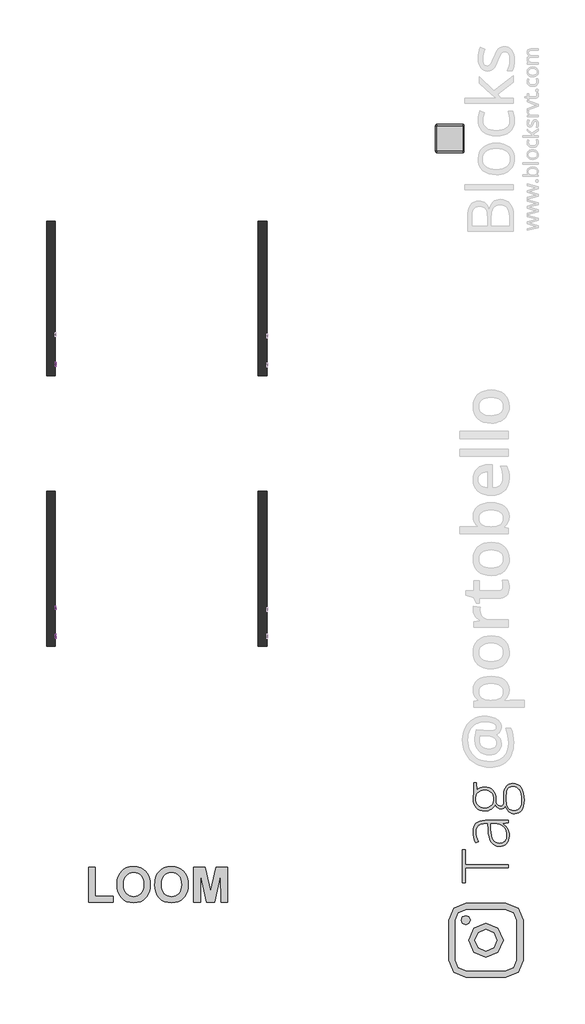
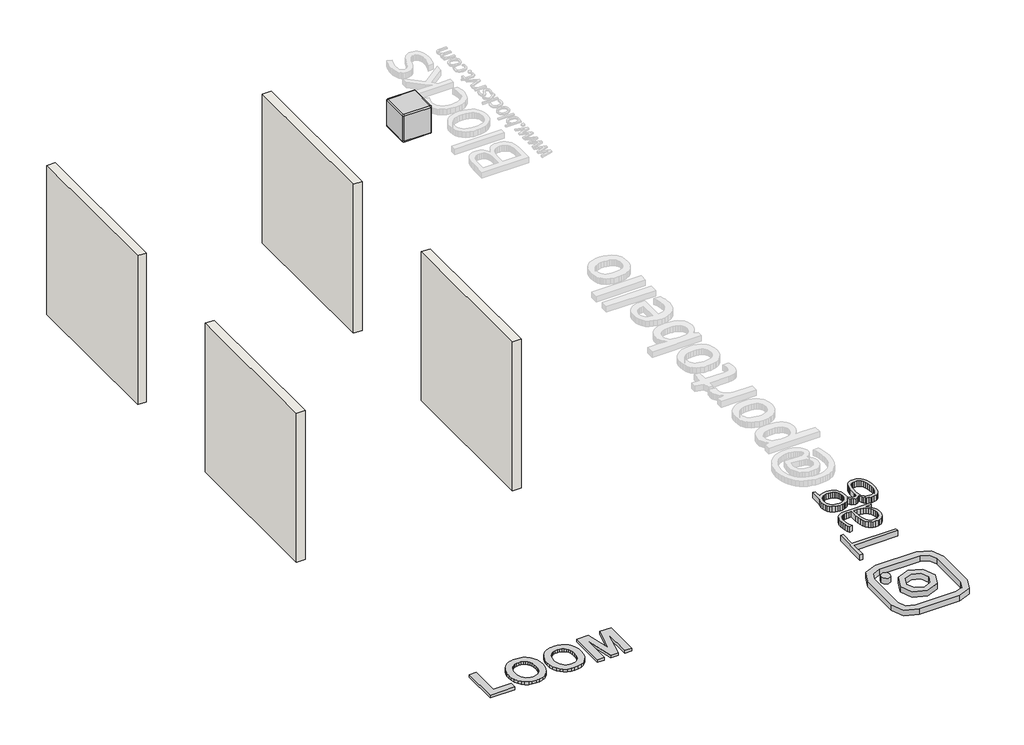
# One storey, part 1 of 3: 6 proxies, 4 walls, 1 furniture element.
"""IFC4 building model written with IfcOpenShell, lengths in millimetres."""

from ifc_helpers import new_model, si_unit, frame, origin, origin_with_axes, place, context, project, spatial, polyline, outline, extrude, transform, mapped, element, save
from components import generic_models_d67f6705, branco_22256ad2

model = new_model("IFC4")

# Units and contexts
model_context = context("Model", 3, world=origin())
ifc_project = project(units=[si_unit("LENGTHUNIT", "METRE", prefix="MILLI")], contexts=[model_context])

# Site, building, storey
site = spatial("IfcSite", under=ifc_project)
building = spatial("IfcBuilding", under=site)
storey = spatial("IfcBuildingStorey", under=building, Name="PORTOBELLO - SHOWROOM", Elevation=0.0)

# Proxies
placement = place(None, origin())
generic_models_shape = generic_models_d67f6705(model_context)
element("IfcBuildingElementProxy", 1, Name="Blks_Instagram1 : Único 2", ObjectType="Blks_Instagram1 : Único 2", at=placement, inside=storey, context=model_context, shape_type="MappedRepresentation", body=[
    mapped(generic_models_shape, transform((-1684.4656971, -13353.3726642, 0.0), x_axis=(-1.0, 0.0, 0.0), y_axis=(0.0, -1.0, 0.0), z_axis=(0.0, 0.0, 1.0))),
])
element("IfcBuildingElementProxy", 2, Name="10mm Arial", ObjectType="10mm Arial", at=placement, inside=storey, context=model_context, shape_type="SweptSolid", body=[
    extrude(outline(polyline([(-8015.2771503, 2494.7271914), (-8002.7201115, 2491.4898299), (-8008.5142529, 2476.8573235), (-8017.6070696, 2466.1672859), (-8029.5509717, 2459.6281834), (-8043.8983695, 2457.4484826), (-8058.4634308, 2459.0978202), (-8070.0302539, 2464.045833), (-8078.89621, 2472.1208428), (-8085.3586704, 2483.1511713), (-8090.6193829, 2510.006557), (-8089.1325265, 2524.6543917), (-8084.6719573, 2537.303401), (-8077.4706672, 2547.5519802), (-8067.7616482, 2554.998525), (-8056.2469418, 2559.5326706), (-8043.6285894, 2561.0440524), (-8029.8606057, 2559.0881465), (-8018.4777236, 2553.2204287), (-8009.8355624, 2543.8026496), (-8004.2897413, 2531.1965599), (-8016.8467801, 2528.204453), (-8027.147476, 2543.643234), (-8044.1190987, 2548.4870137), (-8063.7639972, 2543.1159365), (-8074.8617708, 2528.6949623), (-8078.0623441, 2510.0310824), (-8074.2731596, 2488.3996211), (-8062.4764103, 2474.5795208), (-8045.1491683, 2470.0055213), (-8034.6675971, 2471.5628885), (-8025.9334654, 2476.2349898), (-8019.3391806, 2483.9727744), (-8015.2771503, 2494.7271914)])), frame((-9214.3406146, 0.0, 0.0), z_axis=(1.0, 0.0, 0.0), x_axis=(0.0, 1.0, 0.0)), (0.0, 0.0, 1.0), 20.0),
    extrude(outline(polyline([(-7939.9349177, 2468.4358915), (-7952.1118117, 2459.9255547), (-7965.56403, 2457.4484826), (-7976.0578639, 2458.9384047), (-7983.7987142, 2463.4081709), (-7988.5719831, 2470.1955937), (-7990.1630727, 2478.6384855), (-7987.759577, 2488.5712994), (-7981.4442694, 2495.7817865), (-7972.6518898, 2499.9020648), (-7961.7871082, 2501.7905257), (-7940.0084941, 2506.1070078), (-7939.9349177, 2508.902911), (-7943.3930084, 2518.1735372), (-7957.2744224, 2521.8033063), (-7969.9786139, 2519.3875478), (-7976.0364041, 2510.8158973), (-7988.5934429, 2512.3855272), (-7983.1610521, 2524.6482604), (-7972.2226941, 2531.834222), (-7955.6557416, 2534.360345), (-7940.4376897, 2532.1285276), (-7931.8415138, 2526.5244585), (-7927.9910155, 2518.001859), (-7927.3778789, 2507.0144501), (-7927.3778789, 2491.391728), (-7926.7402168, 2469.5763257), (-7924.2386192, 2459.0181124), (-7936.795658, 2459.0181124), (-7939.9349177, 2468.4358915)]), holes=[polyline([(-7939.9349177, 2493.549969), (-7960.1929529, 2489.6994708), (-7970.9964208, 2487.6638571), (-7975.8892513, 2484.3529192), (-7977.606034, 2479.5214023), (-7973.8659003, 2472.7278481), (-7962.8907542, 2470.0055213), (-7950.1865626, 2473.009891), (-7941.9950568, 2480.2816917), (-7940.0084941, 2489.9937764), (-7939.9349177, 2493.549969)])]), frame((-9214.3406146, 0.0, 0.0), z_axis=(1.0, 0.0, 0.0), x_axis=(0.0, 1.0, 0.0)), (0.0, 0.0, 1.0), 20.0),
    extrude(outline(polyline([(-7910.1119506, 2459.0181124), (-7910.1119506, 2532.7907152), (-7899.1245417, 2532.7907152), (-7899.1245417, 2521.8768827), (-7891.3254434, 2531.9323239), (-7883.4772941, 2534.360345), (-7870.8712044, 2530.4853214), (-7875.0650592, 2519.2281323), (-7883.8942271, 2521.8033063), (-7890.9943496, 2519.3262342), (-7895.5192981, 2512.4591036), (-7897.5549118, 2497.7928747), (-7897.5549118, 2459.0181124), (-7910.1119506, 2459.0181124)])), frame((-9214.3406146, 0.0, 0.0), z_axis=(1.0, 0.0, 0.0), x_axis=(0.0, 1.0, 0.0)), (0.0, 0.0, 1.0), 20.0),
    extrude(outline(polyline([(-7850.4660164, 2459.0181124), (-7863.0230552, 2459.0181124), (-7863.0230552, 2559.4744226), (-7850.4660164, 2559.4744226), (-7850.4660164, 2522.2202392), (-7841.6736367, 2531.3253186), (-7830.7475415, 2534.360345), (-7818.1659773, 2531.6257555), (-7808.4048416, 2523.9370218), (-7802.4083651, 2511.980857), (-7800.2378614, 2497.0080598), (-7802.4850072, 2480.2449035), (-7809.2264448, 2467.7737039), (-7819.1194048, 2460.0297879), (-7830.8211179, 2457.4484826), (-7841.9863364, 2460.7778146), (-7850.4660164, 2470.7658108), (-7850.4660164, 2459.0181124)]), holes=[polyline([(-7850.4660164, 2496.4194486), (-7847.0324511, 2478.8592147), (-7840.4534948, 2472.2189447), (-7831.9002384, 2470.0055213), (-7824.6529631, 2471.6364649), (-7818.4602829, 2476.5292954), (-7814.2112458, 2484.6533561), (-7812.7949001, 2495.9779902), (-7814.1529978, 2507.4681712), (-7818.2272909, 2515.5002614), (-7824.2268331, 2520.2275451), (-7831.3606781, 2521.8033063), (-7838.6079535, 2520.1723628), (-7844.8006337, 2515.2795322), (-7849.0496708, 2507.3026243), (-7850.4660164, 2496.4194486)])]), frame((-9214.3406146, 0.0, 0.0), z_axis=(1.0, 0.0, 0.0), x_axis=(0.0, 1.0, 0.0)), (0.0, 0.0, 1.0), 20.0),
    extrude(outline(polyline([(-7789.2504524, 2495.9044138), (-7786.534257, 2513.6915083), (-7778.3856708, 2526.1933647), (-7768.3179669, 2532.3186), (-7756.2637002, 2534.360345), (-7743.072065, 2531.8740759), (-7732.5353115, 2524.4152684), (-7725.6283271, 2512.5725339), (-7723.3259989, 2496.9344834), (-7727.3972263, 2474.5917836), (-7739.2552893, 2461.9489057), (-7756.2637002, 2457.4484826), (-7769.6147509, 2459.9255547), (-7780.1392417, 2467.356771), (-7786.9726497, 2479.4478259), (-7789.2504524, 2495.9044138)]), holes=[polyline([(-7776.6934137, 2495.9289393), (-7775.2402798, 2484.5644513), (-7770.8808781, 2476.4679817), (-7764.3203159, 2471.6211364), (-7756.2637002, 2470.0055213), (-7748.2438727, 2471.6303335), (-7741.6955732, 2476.5047699), (-7737.3361715, 2484.7085384), (-7735.8830377, 2496.3213467), (-7737.3453686, 2507.3547409), (-7741.7323614, 2515.3408459), (-7748.289858, 2520.1876912), (-7756.2637002, 2521.8033063), (-7764.3203159, 2520.1938225), (-7770.8808781, 2515.3653714), (-7775.2402798, 2507.2872959), (-7776.6934137, 2495.9289393)])]), frame((-9214.3406146, 0.0, 0.0), z_axis=(1.0, 0.0, 0.0), x_axis=(0.0, 1.0, 0.0)), (0.0, 0.0, 1.0), 20.0),
    extrude(outline(polyline([(-7709.1993303, 2459.0181124), (-7709.1993303, 2532.7907152), (-7696.6422915, 2532.7907152), (-7696.6422915, 2522.4900193), (-7687.0405714, 2531.3927636), (-7673.9317097, 2534.360345), (-7662.0736467, 2531.9691121), (-7653.9802428, 2525.6905927), (-7650.2155837, 2516.4567546), (-7649.5533961, 2504.3166488), (-7649.5533961, 2459.0181124), (-7662.1104349, 2459.0181124), (-7662.1104349, 2502.6243916), (-7663.5574374, 2513.7344278), (-7668.6709971, 2519.608277), (-7677.2916986, 2521.8033063), (-7690.9155951, 2516.8736875), (-7695.2106174, 2509.7306455), (-7696.6422915, 2498.1607567), (-7696.6422915, 2459.0181124), (-7709.1993303, 2459.0181124)])), frame((-9214.3406146, 0.0, 0.0), z_axis=(1.0, 0.0, 0.0), x_axis=(0.0, 1.0, 0.0)), (0.0, 0.0, 1.0), 20.0),
])
element("IfcBuildingElementProxy", 3, Name="10mm Arial", ObjectType="10mm Arial", at=placement, inside=storey, context=model_context, shape_type="SweptSolid", body=[
    extrude(outline(polyline([(-3341.3536939, 2439.3911643), (-3341.3536939, 2539.8474745), (-3319.7467581, 2539.8474745), (-3299.1944173, 2469.0424532), (-3295.0496135, 2454.2535969), (-3290.5614531, 2470.2687265), (-3270.3524689, 2539.8474745), (-3248.745533, 2539.8474745), (-3248.745533, 2439.3911643), (-3261.3025718, 2439.3911643), (-3261.3025718, 2527.2904357), (-3286.5392766, 2439.3911643), (-3303.5599503, 2439.3911643), (-3328.7966552, 2527.2904357), (-3328.7966552, 2439.3911643), (-3341.3536939, 2439.3911643)])), frame((-9214.3406146, 0.0, 0.0), z_axis=(1.0, 0.0, 0.0), x_axis=(0.0, 1.0, 0.0)), (0.0, 0.0, 1.0), 20.0),
    extrude(outline(polyline([(-3181.2514496, 2448.8089434), (-3193.4283437, 2440.2986066), (-3206.880562, 2437.8215345), (-3217.3743959, 2439.3114566), (-3225.1152462, 2443.7812228), (-3229.8885151, 2450.5686456), (-3231.4796047, 2459.0115374), (-3229.076109, 2468.9443513), (-3222.7608014, 2476.1548384), (-3213.9684217, 2480.2751167), (-3203.1036401, 2482.1635776), (-3181.325026, 2486.4800597), (-3181.2514496, 2489.2759629), (-3184.7095404, 2498.5465892), (-3198.5909543, 2502.1763582), (-3211.2951459, 2499.7605998), (-3217.3529361, 2491.1889493), (-3229.9099749, 2492.7585791), (-3224.4775841, 2505.0213123), (-3213.5392261, 2512.2072739), (-3196.9722736, 2514.733397), (-3181.7542217, 2512.5015795), (-3173.1580457, 2506.8975105), (-3169.3075475, 2498.3749109), (-3168.6944109, 2487.387502), (-3168.6944109, 2471.7647799), (-3168.0567487, 2449.9493776), (-3165.5551512, 2439.3911643), (-3178.1121899, 2439.3911643), (-3181.2514496, 2448.8089434)]), holes=[polyline([(-3181.2514496, 2473.923021), (-3201.5094848, 2470.0725227), (-3212.3129528, 2468.036909), (-3217.2057833, 2464.7259711), (-3218.9225659, 2459.8944542), (-3215.1824323, 2453.1009), (-3204.2072861, 2450.3785733), (-3191.5030946, 2453.3829429), (-3183.3115888, 2460.6547437), (-3181.325026, 2470.3668283), (-3181.2514496, 2473.923021)])]), frame((-9214.3406146, 0.0, 0.0), z_axis=(1.0, 0.0, 0.0), x_axis=(0.0, 1.0, 0.0)), (0.0, 0.0, 1.0), 20.0),
    extrude(outline(polyline([(-3105.909217, 2439.3911643), (-3105.909217, 2451.2369646), (-3114.2172187, 2441.175392), (-3125.7012684, 2437.8215345), (-3141.250414, 2442.6775768), (-3152.2378229, 2456.227897), (-3156.1373721, 2476.2038893), (-3152.5443913, 2496.1921444), (-3141.7777115, 2509.950931), (-3125.7503193, 2514.733397), (-3114.1742992, 2511.3120944), (-3105.909217, 2502.4216128), (-3105.909217, 2539.8474745), (-3093.3521782, 2539.8474745), (-3093.3521782, 2439.3911643), (-3105.909217, 2439.3911643)]), holes=[polyline([(-3143.5803333, 2476.2529403), (-3142.1639876, 2464.8945837), (-3137.9149506, 2456.8165082), (-3131.7406644, 2451.988057), (-3124.5485714, 2450.3785733), (-3117.3595441, 2451.9144806), (-3111.3416078, 2456.5222026), (-3107.2673147, 2464.2875784), (-3105.909217, 2475.2964471), (-3107.2918402, 2487.3323197), (-3111.4397097, 2495.6771096), (-3117.6109301, 2500.551546), (-3125.0636062, 2502.1763582), (-3132.3292756, 2500.6159254), (-3138.2828326, 2495.934627), (-3142.2559581, 2487.8933397), (-3143.5803333, 2476.2529403)])]), frame((-9214.3406146, 0.0, 0.0), z_axis=(1.0, 0.0, 0.0), x_axis=(0.0, 1.0, 0.0)), (0.0, 0.0, 1.0), 20.0),
    extrude(outline(polyline([(-3028.9973546, 2439.3911643), (-3028.9973546, 2451.2369646), (-3037.3053563, 2441.175392), (-3048.7894059, 2437.8215345), (-3064.3385516, 2442.6775768), (-3075.3259605, 2456.227897), (-3079.2255096, 2476.2038893), (-3075.6325288, 2496.1921444), (-3064.8658491, 2509.950931), (-3048.8384568, 2514.733397), (-3037.2624367, 2511.3120944), (-3028.9973546, 2502.4216128), (-3028.9973546, 2539.8474745), (-3016.4403158, 2539.8474745), (-3016.4403158, 2439.3911643), (-3028.9973546, 2439.3911643)]), holes=[polyline([(-3066.6684709, 2476.2529403), (-3065.2521252, 2464.8945837), (-3061.0030881, 2456.8165082), (-3054.828802, 2451.988057), (-3047.636709, 2450.3785733), (-3040.4476817, 2451.9144806), (-3034.4297454, 2456.5222026), (-3030.3554523, 2464.2875784), (-3028.9973546, 2475.2964471), (-3030.3799777, 2487.3323197), (-3034.5278472, 2495.6771096), (-3040.6990677, 2500.551546), (-3048.1517438, 2502.1763582), (-3055.4174132, 2500.6159254), (-3061.3709701, 2495.934627), (-3065.3440957, 2487.8933397), (-3066.6684709, 2476.2529403)])]), frame((-9214.3406146, 0.0, 0.0), z_axis=(1.0, 0.0, 0.0), x_axis=(0.0, 1.0, 0.0)), (0.0, 0.0, 1.0), 20.0),
    extrude(outline(polyline([(-2945.9541255, 2461.3659822), (-2933.6423414, 2459.7963523), (-2938.0783851, 2450.5195947), (-2945.1570479, 2443.5850191), (-2954.718914, 2439.2624056), (-2966.6045682, 2437.8215345), (-2981.3382421, 2440.3078036), (-2992.6751389, 2447.7666111), (-2999.9040201, 2459.7135789), (-3002.3136472, 2475.6643291), (-2999.8794946, 2492.1515738), (-2992.577037, 2504.481752), (-2981.3934244, 2512.1704857), (-2967.3158067, 2514.733397), (-2953.6765817, 2512.1766171), (-2942.7780776, 2504.5062775), (-2935.6319699, 2492.2006248), (-2933.2499339, 2475.7379055), (-2933.3235103, 2472.3533911), (-2989.7566084, 2472.3533911), (-2987.583039, 2462.9540061), (-2982.5338586, 2456.043956), (-2975.2467294, 2451.7949189), (-2966.3593135, 2450.3785733), (-2954.0475294, 2453.0027982), (-2945.9541255, 2461.3659822)]), holes=[polyline([(-2989.7566084, 2484.9104299), (-2945.8069727, 2484.9104299), (-2950.8346933, 2496.2902463), (-2958.155545, 2500.7048302), (-2967.3648576, 2502.1763582), (-2982.8281642, 2497.4797314), (-2987.6934036, 2491.9890926), (-2989.7566084, 2484.9104299)])]), frame((-9214.3406146, 0.0, 0.0), z_axis=(1.0, 0.0, 0.0), x_axis=(0.0, 1.0, 0.0)), (0.0, 0.0, 1.0), 20.0),
    extrude(outline(polyline([(-2920.6928952, 2439.3911643), (-2920.6928952, 2513.1637671), (-2909.7054863, 2513.1637671), (-2909.7054863, 2502.2499346), (-2901.906388, 2512.3053758), (-2894.0582387, 2514.733397), (-2881.452149, 2510.8583733), (-2885.6460038, 2499.6011842), (-2894.4751717, 2502.1763582), (-2901.5752942, 2499.6992861), (-2906.1002427, 2492.8321555), (-2908.1358564, 2478.1659266), (-2908.1358564, 2439.3911643), (-2920.6928952, 2439.3911643)])), frame((-9214.3406146, 0.0, 0.0), z_axis=(1.0, 0.0, 0.0), x_axis=(0.0, 1.0, 0.0)), (0.0, 0.0, 1.0), 20.0),
])
element("IfcBuildingElementProxy", 4, Name="10mm Arial", ObjectType="10mm Arial", at=placement, inside=storey, context=model_context, shape_type="SweptSolid", body=[
    extrude(outline(polyline([(-7585.9104933, 2459.0181124), (-7585.9104933, 2559.4744226), (-7548.6808354, 2559.4744226), (-7533.67125, 2558.5179294), (-7521.4698305, 2553.8213026), (-7513.5603676, 2544.1092179), (-7510.5682607, 2530.411745), (-7512.588546, 2518.5720761), (-7518.6494019, 2508.7067072), (-7529.983233, 2502.0480431), (-7547.8224441, 2499.8284884), (-7573.3534546, 2499.8284884), (-7573.3534546, 2459.0181124), (-7585.9104933, 2459.0181124)]), holes=[polyline([(-7573.3534546, 2512.3855272), (-7547.0866801, 2512.3855272), (-7528.5944785, 2516.9963149), (-7524.4925943, 2522.5452016), (-7523.1252995, 2529.9702866), (-7526.3503983, 2540.3690843), (-7534.8239469, 2546.0589925), (-7547.3809857, 2546.9173838), (-7573.3534546, 2546.9173838), (-7573.3534546, 2512.3855272)])]), frame((-9214.3406146, 0.0, 0.0), z_axis=(1.0, 0.0, 0.0), x_axis=(0.0, 1.0, 0.0)), (0.0, 0.0, 1.0), 20.0),
    extrude(outline(polyline([(-7498.011222, 2495.9044138), (-7495.2950266, 2513.6915083), (-7487.1464404, 2526.1933647), (-7477.0787364, 2532.3186), (-7465.0244697, 2534.360345), (-7451.8328345, 2531.8740759), (-7441.296081, 2524.4152684), (-7434.3890966, 2512.5725339), (-7432.0867684, 2496.9344834), (-7436.1579958, 2474.5917836), (-7448.0160588, 2461.9489057), (-7465.0244697, 2457.4484826), (-7478.3755205, 2459.9255547), (-7488.9000112, 2467.356771), (-7495.7334193, 2479.4478259), (-7498.011222, 2495.9044138)]), holes=[polyline([(-7485.4541832, 2495.9289393), (-7484.0010493, 2484.5644513), (-7479.6416477, 2476.4679817), (-7473.0810854, 2471.6211364), (-7465.0244697, 2470.0055213), (-7457.0046422, 2471.6303335), (-7450.4563427, 2476.5047699), (-7446.0969411, 2484.7085384), (-7444.6438072, 2496.3213467), (-7446.1061381, 2507.3547409), (-7450.4931309, 2515.3408459), (-7457.0506275, 2520.1876912), (-7465.0244697, 2521.8033063), (-7473.0810854, 2520.1938225), (-7479.6416477, 2515.3653714), (-7484.0010493, 2507.2872959), (-7485.4541832, 2495.9289393)])]), frame((-9214.3406146, 0.0, 0.0), z_axis=(1.0, 0.0, 0.0), x_axis=(0.0, 1.0, 0.0)), (0.0, 0.0, 1.0), 20.0),
    extrude(outline(polyline([(-7417.9600998, 2459.0181124), (-7417.9600998, 2532.7907152), (-7406.9726909, 2532.7907152), (-7406.9726909, 2521.8768827), (-7399.1735926, 2531.9323239), (-7391.3254434, 2534.360345), (-7378.7193537, 2530.4853214), (-7382.9132084, 2519.2281323), (-7391.7423763, 2521.8033063), (-7398.8424988, 2519.3262342), (-7403.3674473, 2512.4591036), (-7405.403061, 2497.7928747), (-7405.403061, 2459.0181124), (-7417.9600998, 2459.0181124)])), frame((-9214.3406146, 0.0, 0.0), z_axis=(1.0, 0.0, 0.0), x_axis=(0.0, 1.0, 0.0)), (0.0, 0.0, 1.0), 20.0),
    extrude(outline(polyline([(-7344.187497, 2469.4904866), (-7342.6178672, 2458.6502304), (-7352.0111208, 2457.4484826), (-7362.5325459, 2459.5331472), (-7367.7809957, 2465.0023262), (-7369.3015746, 2479.2516222), (-7369.3015746, 2520.2336764), (-7378.7193537, 2520.2336764), (-7378.7193537, 2530.4853214), (-7378.7193537, 2532.7907152), (-7369.3015746, 2532.7907152), (-7369.3015746, 2550.7188311), (-7356.7445358, 2558.1009965), (-7356.7445358, 2532.7907152), (-7344.187497, 2532.7907152), (-7344.187497, 2520.2336764), (-7356.7445358, 2520.2336764), (-7356.7445358, 2479.6195042), (-7356.0823482, 2473.144781), (-7353.9363699, 2470.8516499), (-7349.656676, 2470.0055213), (-7344.187497, 2469.4904866)])), frame((-9214.3406146, 0.0, 0.0), z_axis=(1.0, 0.0, 0.0), x_axis=(0.0, 1.0, 0.0)), (0.0, 0.0, 1.0), 20.0),
    extrude(outline(polyline([(-7334.769718, 2495.9044138), (-7332.0535226, 2513.6915083), (-7323.9049364, 2526.1933647), (-7313.8372324, 2532.3186), (-7301.7829657, 2534.360345), (-7288.5913305, 2531.8740759), (-7278.054577, 2524.4152684), (-7271.1475926, 2512.5725339), (-7268.8452644, 2496.9344834), (-7272.9164918, 2474.5917836), (-7284.7745548, 2461.9489057), (-7301.7829657, 2457.4484826), (-7315.1340165, 2459.9255547), (-7325.6585072, 2467.356771), (-7332.4919153, 2479.4478259), (-7334.769718, 2495.9044138)]), holes=[polyline([(-7322.2126792, 2495.9289393), (-7320.7595453, 2484.5644513), (-7316.4001437, 2476.4679817), (-7309.8395814, 2471.6211364), (-7301.7829657, 2470.0055213), (-7293.7631382, 2471.6303335), (-7287.2148387, 2476.5047699), (-7282.8554371, 2484.7085384), (-7281.4023032, 2496.3213467), (-7282.8646341, 2507.3547409), (-7287.2516269, 2515.3408459), (-7293.8091235, 2520.1876912), (-7301.7829657, 2521.8033063), (-7309.8395814, 2520.1938225), (-7316.4001437, 2515.3653714), (-7320.7595453, 2507.2872959), (-7322.2126792, 2495.9289393)])]), frame((-9214.3406146, 0.0, 0.0), z_axis=(1.0, 0.0, 0.0), x_axis=(0.0, 1.0, 0.0)), (0.0, 0.0, 1.0), 20.0),
    extrude(outline(polyline([(-7242.1615571, 2459.0181124), (-7254.7185958, 2459.0181124), (-7254.7185958, 2559.4744226), (-7242.1615571, 2559.4744226), (-7242.1615571, 2522.2202392), (-7233.3691774, 2531.3253186), (-7222.4430821, 2534.360345), (-7209.8615179, 2531.6257555), (-7200.1003823, 2523.9370218), (-7194.1039057, 2511.980857), (-7191.933402, 2497.0080598), (-7194.1805478, 2480.2449035), (-7200.9219854, 2467.7737039), (-7210.8149454, 2460.0297879), (-7222.5166585, 2457.4484826), (-7233.6818771, 2460.7778146), (-7242.1615571, 2470.7658108), (-7242.1615571, 2459.0181124)]), holes=[polyline([(-7242.1615571, 2496.4194486), (-7238.7279918, 2478.8592147), (-7232.1490354, 2472.2189447), (-7223.595779, 2470.0055213), (-7216.3485037, 2471.6364649), (-7210.1558235, 2476.5292954), (-7205.9067864, 2484.6533561), (-7204.4904407, 2495.9779902), (-7205.8485384, 2507.4681712), (-7209.9228315, 2515.5002614), (-7215.9223737, 2520.2275451), (-7223.0562188, 2521.8033063), (-7230.3034941, 2520.1723628), (-7236.4961743, 2515.2795322), (-7240.7452114, 2507.3026243), (-7242.1615571, 2496.4194486)])]), frame((-9214.3406146, 0.0, 0.0), z_axis=(1.0, 0.0, 0.0), x_axis=(0.0, 1.0, 0.0)), (0.0, 0.0, 1.0), 20.0),
    extrude(outline(polyline([(-7126.1561012, 2480.9929303), (-7113.8443171, 2479.4233004), (-7118.2803609, 2470.1465428), (-7125.3590236, 2463.2119672), (-7134.9208898, 2458.8893537), (-7146.8065439, 2457.4484826), (-7161.5402178, 2459.9347517), (-7172.8771146, 2467.3935592), (-7180.1059958, 2479.340527), (-7182.5156229, 2495.2912771), (-7180.0814704, 2511.7785219), (-7172.7790128, 2524.1087001), (-7161.5954001, 2531.7974338), (-7147.5177824, 2534.360345), (-7133.8785575, 2531.8035652), (-7122.9800533, 2524.1332256), (-7115.8339456, 2511.8275728), (-7113.4519097, 2495.3648535), (-7113.5254861, 2491.9803392), (-7169.9585841, 2491.9803392), (-7167.7850147, 2482.5809542), (-7162.7358343, 2475.6709041), (-7155.4487051, 2471.421867), (-7146.5612892, 2470.0055213), (-7134.2495051, 2472.6297462), (-7126.1561012, 2480.9929303)]), holes=[polyline([(-7169.9585841, 2504.537378), (-7126.0089484, 2504.537378), (-7131.036669, 2515.9171943), (-7138.3575207, 2520.3317783), (-7147.5668334, 2521.8033063), (-7163.0301399, 2517.1066795), (-7167.8953793, 2511.6160407), (-7169.9585841, 2504.537378)])]), frame((-9214.3406146, 0.0, 0.0), z_axis=(1.0, 0.0, 0.0), x_axis=(0.0, 1.0, 0.0)), (0.0, 0.0, 1.0), 20.0),
    extrude(outline(polyline([(-9194.3406146, -7088.3378321), (-9194.3406146, -7100.8948709), (-9214.3406146, -7100.8948709), (-9214.3406146, -7088.3378321), (-9194.3406146, -7088.3378321)])), frame((0.0, 0.0, 2459.0181124), z_axis=(0.0, 0.0, 1.0), x_axis=(1.0, 0.0, 0.0)), (0.0, 0.0, 1.0), 100.4563101),
    extrude(outline(polyline([(-9194.3406146, -7056.9452352), (-9194.3406146, -7069.502274), (-9214.3406146, -7069.502274), (-9214.3406146, -7056.9452352), (-9194.3406146, -7056.9452352)])), frame((0.0, 0.0, 2459.0181124), z_axis=(0.0, 0.0, 1.0), x_axis=(1.0, 0.0, 0.0)), (0.0, 0.0, 1.0), 100.4563101),
    extrude(outline(polyline([(-7041.2489368, 2495.9044138), (-7038.5327414, 2513.6915083), (-7030.3841552, 2526.1933647), (-7020.3164512, 2532.3186), (-7008.2621845, 2534.360345), (-6995.0705493, 2531.8740759), (-6984.5337958, 2524.4152684), (-6977.6268114, 2512.5725339), (-6975.3244832, 2496.9344834), (-6979.3957106, 2474.5917836), (-6991.2537736, 2461.9489057), (-7008.2621845, 2457.4484826), (-7021.6132353, 2459.9255547), (-7032.137726, 2467.356771), (-7038.9711341, 2479.4478259), (-7041.2489368, 2495.9044138)]), holes=[polyline([(-7028.691898, 2495.9289393), (-7027.2387641, 2484.5644513), (-7022.8793625, 2476.4679817), (-7016.3188002, 2471.6211364), (-7008.2621845, 2470.0055213), (-7000.242357, 2471.6303335), (-6993.6940575, 2476.5047699), (-6989.3346559, 2484.7085384), (-6987.881522, 2496.3213467), (-6989.3438529, 2507.3547409), (-6993.7308457, 2515.3408459), (-7000.2883423, 2520.1876912), (-7008.2621845, 2521.8033063), (-7016.3188002, 2520.1938225), (-7022.8793625, 2515.3653714), (-7027.2387641, 2507.2872959), (-7028.691898, 2495.9289393)])]), frame((-9214.3406146, 0.0, 0.0), z_axis=(1.0, 0.0, 0.0), x_axis=(0.0, 1.0, 0.0)), (0.0, 0.0, 1.0), 20.0),
])
element("IfcBuildingElementProxy", 5, Name="600mm Arial", ObjectType="600mm Arial", at=placement, inside=storey, context=model_context, shape_type="SweptSolid", body=[
    extrude(outline(polyline([(-8628.1261438, -12688.7002712), (-8628.1261438, -12076.5446312), (-8511.5250695, -12076.5446312), (-8511.5250695, -12581.8159531), (-8200.5888714, -12581.8159531), (-8200.5888714, -12688.7002712), (-8628.1261438, -12688.7002712)])), origin_with_axes(), (0.0, 0.0, 1.0), 50.0),
    extrude(outline(polyline([(-8132.5715781, -12386.4180591), (-8130.8540655, -12341.610908), (-8125.7015278, -12300.5614087), (-8117.113965, -12263.2695612), (-8105.091377, -12229.7353655), (-8080.8564206, -12185.4975556), (-8049.1441167, -12146.0042555), (-8012.0040935, -12113.6846544), (-7971.4859794, -12090.9679412), (-7942.3167327, -12080.4066622), (-7910.9839896, -12072.8628916), (-7877.48775, -12068.3366292), (-7841.8280139, -12066.827875), (-7778.7260328, -12072.0610694), (-7722.2663655, -12087.7606525), (-7672.449012, -12113.9266244), (-7629.2739723, -12150.558985), (-7610.5924647, -12172.5130183), (-7594.4018248, -12196.509563), (-7569.4931481, -12250.6301869), (-7554.547942, -12312.9208569), (-7549.5662067, -12383.3815728), (-7554.5099859, -12453.3630932), (-7569.3413238, -12515.2789468), (-7594.0602201, -12569.1291337), (-7610.1275028, -12593.0296022), (-7628.666675, -12614.9136539), (-7671.5570441, -12651.4463798), (-7721.1276831, -12677.541184), (-7777.378592, -12693.1980665), (-7840.3097708, -12698.4170274), (-7903.9051809, -12693.2217891), (-7960.6305408, -12677.6360742), (-8010.4858504, -12651.6598827), (-8053.4711097, -12615.2932147), (-8088.0775646, -12569.8170877), (-8112.796461, -12516.5125194), (-8127.6277988, -12455.3795099), (-8132.5715781, -12386.4180591)]), holes=[polyline([(-8015.9705038, -12382.1669783), (-8012.8723389, -12430.5894459), (-8003.577844, -12472.7681385), (-7988.0870194, -12508.7030562), (-7966.3998648, -12538.3941989), (-7939.9397333, -12561.6422972), (-7910.1299779, -12578.2480817), (-7876.9705985, -12588.2115524), (-7840.4615951, -12591.5327093), (-7803.9905478, -12588.2352749), (-7770.9450367, -12578.3429719), (-7741.3250616, -12561.8558001), (-7715.1306227, -12538.7737597), (-7693.7091607, -12509.0968505), (-7678.4081164, -12472.8250726), (-7669.2274898, -12429.9584261), (-7666.1672809, -12380.4969108), (-7669.1468331, -12331.7233494), (-7678.0854897, -12289.5541458), (-7692.9832507, -12253.9892999), (-7713.840116, -12225.0288117), (-7739.6312716, -12202.5777911), (-7769.3319033, -12186.5413478), (-7802.9420111, -12176.9194818), (-7840.4615951, -12173.7121931), (-7878.0191351, -12176.9574379), (-7911.7431112, -12186.6931721), (-7941.6335233, -12202.9193958), (-7967.6903715, -12225.636109), (-7988.8129294, -12254.8907568), (-8003.9004707, -12290.7307843), (-8012.9529955, -12333.1561914), (-8015.9705038, -12382.1669783)])]), origin_with_axes(), (0.0, 0.0, 1.0), 50.0),
    extrude(outline(polyline([(-7471.8321571, -12386.4180591), (-7470.1146446, -12341.610908), (-7464.9621069, -12300.5614087), (-7456.374544, -12263.2695612), (-7444.351956, -12229.7353655), (-7420.1169997, -12185.4975556), (-7388.4046958, -12146.0042555), (-7351.2646726, -12113.6846544), (-7310.7465584, -12090.9679412), (-7281.5773118, -12080.4066622), (-7250.2445687, -12072.8628916), (-7216.7483291, -12068.3366292), (-7181.088593, -12066.827875), (-7117.9866119, -12072.0610694), (-7061.5269446, -12087.7606525), (-7011.7095911, -12113.9266244), (-6968.5345514, -12150.558985), (-6949.8530438, -12172.5130183), (-6933.6624039, -12196.509563), (-6908.7537271, -12250.6301869), (-6893.8085211, -12312.9208569), (-6888.8267857, -12383.3815728), (-6893.770565, -12453.3630932), (-6908.6019028, -12515.2789468), (-6933.3207992, -12569.1291337), (-6949.3880818, -12593.0296022), (-6967.9272541, -12614.9136539), (-7010.8176232, -12651.4463798), (-7060.3882622, -12677.541184), (-7116.6391711, -12693.1980665), (-7179.5703499, -12698.4170274), (-7243.16576, -12693.2217891), (-7299.8911199, -12677.6360742), (-7349.7464295, -12651.6598827), (-7392.7316888, -12615.2932147), (-7427.3381437, -12569.8170877), (-7452.0570401, -12516.5125194), (-7466.8883779, -12455.3795099), (-7471.8321571, -12386.4180591)]), holes=[polyline([(-7355.2310829, -12382.1669783), (-7352.1329179, -12430.5894459), (-7342.8384231, -12472.7681385), (-7327.3475984, -12508.7030562), (-7305.6604439, -12538.3941989), (-7279.2003124, -12561.6422972), (-7249.3905569, -12578.2480817), (-7216.2311775, -12588.2115524), (-7179.7221742, -12591.5327093), (-7143.2511269, -12588.2352749), (-7110.2056157, -12578.3429719), (-7080.5856407, -12561.8558001), (-7054.3912018, -12538.7737597), (-7032.9697398, -12509.0968505), (-7017.6686955, -12472.8250726), (-7008.4880689, -12429.9584261), (-7005.42786, -12380.4969108), (-7008.4074122, -12331.7233494), (-7017.3460688, -12289.5541458), (-7032.2438297, -12253.9892999), (-7053.1006951, -12225.0288117), (-7078.8918507, -12202.5777911), (-7108.5924824, -12186.5413478), (-7142.2025902, -12176.9194818), (-7179.7221742, -12173.7121931), (-7217.2797142, -12176.9574379), (-7251.0036903, -12186.6931721), (-7280.8941024, -12202.9193958), (-7306.9509505, -12225.636109), (-7328.0735084, -12254.8907568), (-7343.1610498, -12290.7307843), (-7352.2135746, -12333.1561914), (-7355.2310829, -12382.1669783)])]), origin_with_axes(), (0.0, 0.0, 1.0), 50.0),
    extrude(outline(polyline([(-6791.6592238, -12688.7002712), (-6791.6592238, -12076.5446312), (-6591.8584247, -12076.5446312), (-6495.29816, -12494.0614988), (-6398.7378954, -12076.5446312), (-6198.9370962, -12076.5446312), (-6198.9370962, -12688.7002712), (-6315.5381705, -12688.7002712), (-6320.3965486, -12206.8098939), (-6426.9772181, -12688.7002712), (-6563.4672777, -12688.7002712), (-6670.1997715, -12206.8098939), (-6675.0581496, -12688.7002712), (-6791.6592238, -12688.7002712)])), origin_with_axes(), (0.0, 0.0, 1.0), 50.0),
])
element("IfcBuildingElementProxy", 6, Name="80mm OpenSans Light", ObjectType="80mm OpenSans Light", at=placement, inside=storey, context=model_context, shape_type="SweptSolid", body=[
    extrude(outline(polyline([(-1292.7527124, -12031.8767243), (-1292.7527124, -12088.362871), (-2046.542313, -12088.362871), (-2046.542313, -12346.9973131), (-2092.6926967, -12346.9973131), (-2092.6926967, -11773.4826488), (-2046.542313, -11773.4826488), (-2046.542313, -12031.8767243), (-1292.7527124, -12031.8767243)])), origin_with_axes(), (0.0, 0.0, 1.0), 100.0),
    extrude(outline(polyline([(-1292.7527124, -11301.8834153), (-1388.4186119, -11315.5843104), (-1388.4186119, -11319.9109089), (-1360.2431417, -11342.7832915), (-1336.5294761, -11365.9711552), (-1317.2776152, -11389.4745), (-1302.4875589, -11413.293326), (-1291.4982993, -11438.3590536), (-1283.6488281, -11465.6031033), (-1278.9391454, -11495.0254752), (-1277.3692511, -11526.6261693), (-1280.2611616, -11568.5100462), (-1288.9368929, -11605.4664081), (-1303.3964451, -11637.4952552), (-1323.6398181, -11664.5965873), (-1348.9909811, -11686.1544651), (-1378.7739028, -11701.5529492), (-1412.9885835, -11710.7920397), (-1451.635023, -11713.8717365), (-1493.8569153, -11709.2822371), (-1531.1062241, -11695.5137389), (-1563.3829491, -11672.5662417), (-1590.6870905, -11640.4397458), (-1612.5829839, -11599.6300071), (-1628.6349647, -11550.6327817), (-1638.8430329, -11493.4480695), (-1643.2071887, -11428.0758707), (-1646.5723208, -11313.4210112), (-1686.9539066, -11313.4210112), (-1727.5758589, -11315.5993334), (-1762.9097464, -11322.1342998), (-1792.9555692, -11333.0259105), (-1817.7133271, -11348.2741656), (-1837.0628369, -11368.374821), (-1850.8839154, -11393.8236328), (-1859.1765625, -11424.6206011), (-1861.9407781, -11460.7657259), (-1859.0563792, -11502.9650839), (-1850.4031822, -11545.9155875), (-1835.9811873, -11589.6172366), (-1815.7903944, -11634.0700314), (-1862.9022445, -11654.5011908), (-1882.6723958, -11605.1359041), (-1896.7939325, -11556.0710756), (-1905.2668545, -11507.3067053), (-1908.0911619, -11458.8427932), (-1904.8537245, -11412.4595544), (-1895.1414123, -11372.3408696), (-1878.9542253, -11338.4867388), (-1856.2921635, -11310.8971621), (-1826.7796541, -11289.4970249), (-1790.0411244, -11274.2112125), (-1746.0765742, -11265.0397252), (-1694.8860038, -11261.9825627), (-1292.7527124, -11261.9825627), (-1292.7527124, -11301.8834153)]), holes=[polyline([(-1323.5196348, -11523.7417703), (-1327.0875763, -11477.9819823), (-1337.7914006, -11437.3299841), (-1355.6311079, -11401.7857759), (-1380.606698, -11371.3493574), (-1411.9219568, -11346.9521494), (-1448.7806698, -11329.5255722), (-1491.1828371, -11319.0696259), (-1539.1284587, -11315.5843104), (-1600.4219371, -11315.5843104), (-1595.8549721, -11421.1052399), (-1590.9499915, -11480.1152357), (-1582.4845809, -11529.9913014), (-1570.4587404, -11570.7334371), (-1554.8724699, -11602.3416426), (-1535.094807, -11626.002728), (-1510.4947897, -11642.9035033), (-1481.0724178, -11653.0439684), (-1446.8276913, -11656.4241235), (-1419.2456261, -11654.2533128), (-1394.9085096, -11647.7408807), (-1373.8163421, -11636.8868273), (-1355.9691234, -11621.6911524), (-1341.7724722, -11602.5444519), (-1331.632007, -11579.8373213), (-1325.5477279, -11553.5697608), (-1323.5196348, -11523.7417703)])]), origin_with_axes(), (0.0, 0.0, 1.0), 100.0),
    extrude(outline(polyline([(-1892.7077006, -10605.7817943), (-1854.2490475, -10605.7817943), (-1846.5573169, -10729.0898508), (-1814.4082866, -10707.4268126), (-1780.6968735, -10691.9532139), (-1745.4230776, -10682.6690547), (-1708.5868989, -10679.5743349), (-1665.9969452, -10683.1347649), (-1627.6434525, -10693.8160549), (-1593.5264208, -10711.6182049), (-1563.6458501, -10736.5412148), (-1539.3538024, -10767.4733893), (-1522.0023398, -10803.3030329), (-1511.5914622, -10844.0301456), (-1508.1211697, -10889.6547274), (-1511.4863018, -10946.1408742), (-1493.1883958, -10974.5341767), (-1471.9459991, -10995.2958402), (-1448.5403032, -11008.0052232), (-1423.7524995, -11012.2416842), (-1399.4153831, -11006.8634819), (-1390.0861551, -11000.1407291), (-1382.649814, -10990.7288751), (-1372.9149674, -10961.9149311), (-1369.6700186, -10918.4987173), (-1369.6700186, -10814.6603539), (-1367.2062611, -10769.2836501), (-1359.8149887, -10729.5405381), (-1347.4962014, -10695.4310179), (-1330.2498991, -10666.9550894), (-1308.1812423, -10644.5033483), (-1281.3953914, -10628.4663905), (-1249.8923462, -10618.8442157), (-1213.6721069, -10615.6368242), (-1169.0165029, -10620.3990871), (-1129.7541241, -10634.6858758), (-1095.8849704, -10658.4971903), (-1067.4090419, -10691.8330306), (-1044.8521405, -10733.9572741), (-1028.7400681, -10784.133798), (-1019.0728246, -10842.3626025), (-1015.8504101, -10908.6436874), (-1018.6071143, -10961.4867781), (-1026.877227, -11008.0052232), (-1040.6607482, -11048.1990225), (-1059.9576779, -11082.0681762), (-1084.1821224, -11108.9366532), (-1112.7481884, -11128.1284224), (-1145.6558757, -11139.643484), (-1182.9051845, -11143.4818379), (-1212.9359843, -11141.1082179), (-1240.2927059, -11133.9873579), (-1264.9753493, -11122.1192579), (-1286.9839144, -11105.5039179), (-1306.0179431, -11084.817369), (-1321.7769771, -11060.7356421), (-1334.2610165, -11033.2587372), (-1343.4700611, -11002.3866543), (-1356.8704981, -11026.6035874), (-1374.9580834, -11045.4122725), (-1396.8915339, -11057.4906932), (-1421.8295668, -11061.5168335), (-1449.8172507, -11056.7545705), (-1476.0923227, -11042.4677818), (-1500.6547827, -11018.6564673), (-1523.5046309, -10985.320627), (-1536.2590827, -11009.9506902), (-1552.1683458, -11031.6813315), (-1571.2324203, -11050.5125509), (-1593.4513062, -11066.4443484), (-1618.1189267, -11079.1161741), (-1644.5292049, -11088.1674782), (-1672.6821408, -11093.5982607), (-1702.5777344, -11095.4085215), (-1746.7901625, -11091.8781373), (-1786.4055798, -11081.2869848), (-1821.4239862, -11063.635064), (-1851.8453817, -11038.9223748), (-1876.4529105, -11008.200521), (-1894.0297168, -10972.5211065), (-1904.5758006, -10931.8841313), (-1908.0911619, -10886.2895953), (-1904.2452965, -10834.4305053), (-1892.7077006, -10795.6713939), (-1892.7077006, -10605.7817943)]), holes=[polyline([(-1189.6354488, -11086.0342248), (-1159.7210765, -11083.1986503), (-1133.7952872, -11074.6919267), (-1111.8580809, -11060.5140541), (-1093.9094576, -11040.6650325), (-1079.9494172, -11015.1448618), (-1069.9779597, -10983.9535421), (-1063.9950853, -10947.0910733), (-1062.0007938, -10904.5574555), (-1064.4307497, -10849.8552795), (-1071.7206175, -10802.446727), (-1083.870397, -10762.3317979), (-1100.8800884, -10729.5104923), (-1122.7496916, -10703.9828102), (-1149.4792067, -10685.7487515), (-1181.0686336, -10674.8083163), (-1217.5179723, -10671.1615046), (-1243.4850745, -10673.4449871), (-1265.6213344, -10680.2954347), (-1283.9267519, -10691.7128473), (-1298.401327, -10707.697225), (-1309.3905867, -10728.7893926), (-1317.2400579, -10755.5301748), (-1321.9497406, -10787.9195717), (-1323.5196348, -10825.9575833), (-1323.5196348, -10923.0656823), (-1321.4276944, -10961.2614345), (-1315.1518732, -10994.3644197), (-1304.6921712, -11022.3746379), (-1290.0485883, -11045.2920892), (-1271.2211247, -11063.1167735), (-1248.2097802, -11075.8486909), (-1221.0145549, -11083.4878413), (-1189.6354488, -11086.0342248)]), polyline([(-1703.2988341, -11040.3645743), (-1669.8352991, -11037.7580991), (-1640.3528355, -11029.9386738), (-1614.8514435, -11016.9062982), (-1593.3311229, -10998.6609723), (-1576.2425613, -10976.0590022), (-1564.0364458, -10949.9566937), (-1556.7127765, -10920.3540468), (-1554.2715534, -10887.2510616), (-1556.6977536, -10852.3979073), (-1563.9763541, -10821.8713514), (-1576.1073551, -10795.6713939), (-1593.0907564, -10773.798035), (-1614.6711685, -10756.5517328), (-1640.5932021, -10744.2329454), (-1670.856857, -10736.841673), (-1705.4621334, -10734.3779156), (-1742.1856402, -10736.9167876), (-1773.996655, -10744.5334037), (-1800.8951778, -10757.2277638), (-1822.8812086, -10774.9998679), (-1839.9697703, -10797.3239142), (-1852.1758858, -10823.6741007), (-1859.499555, -10854.0504275), (-1861.9407781, -10888.4528945), (-1859.3192801, -10921.9089181), (-1851.454786, -10951.6092139), (-1838.3472958, -10977.5537818), (-1819.9968096, -10999.7426219), (-1796.9741979, -11017.5147261), (-1769.8503315, -11030.2090862), (-1738.6252102, -11037.8257022), (-1703.2988341, -11040.3645743)])]), origin_with_axes(), (0.0, 0.0, 1.0), 100.0),
])

# Furniture
branco_shape = branco_22256ad2(model_context)
element("IfcFurniture", 7, ObjectType="Blks_Mob_Blocks Revit_Cubo : Branco", at=placement, inside=storey, context=model_context, shape_type="MappedRepresentation", body=[
    mapped(branco_shape, transform((-2316.6423405, 647.729039, 0.0), x_axis=(1.0, 0.0, 0.0), y_axis=(0.0, 1.0, 0.0), z_axis=(0.0, 0.0, 1.0))),
])

# Walls
element("IfcWall", 8, ObjectType="PORTOBELLO - LOOM - CARBON - 14X70", at=placement, inside=storey, context=model_context, shape_type="SweptSolid", body=[
    extrude(outline(polyline([(-9214.3406146, -5516.9389315), (-9214.3406146, -8216.9389315), (-9364.3406146, -8216.9389315), (-9364.3406146, -5516.9389315), (-9214.3406146, -5516.9389315)])), origin_with_axes(), (0.0, 0.0, 1.0), 2700.0),
])
element("IfcWall", 9, ObjectType="PORTOBELLO - LOOM - COTTON - 14X70", at=placement, inside=storey, context=model_context, shape_type="SweptSolid", body=[
    extrude(outline(polyline([(-5514.3406146, -5516.9389315), (-5514.3406146, -8216.9389315), (-5664.3406146, -8216.9389315), (-5664.3406146, -5516.9389315), (-5514.3406146, -5516.9389315)])), origin_with_axes(), (0.0, 0.0, 1.0), 2700.0),
])
element("IfcWall", 10, ObjectType="PORTOBELLO - LOOM - DUST - 14X70", at=placement, inside=storey, context=model_context, shape_type="SweptSolid", body=[
    extrude(outline(polyline([(-5514.3406146, -800.1470642), (-5514.3406146, -3500.1470642), (-5664.3406146, -3500.1470642), (-5664.3406146, -800.1470642), (-5514.3406146, -800.1470642)])), origin_with_axes(), (0.0, 0.0, 1.0), 2700.0),
])
element("IfcWall", 11, ObjectType="PORTOBELLO - LOOM - MADDER - 14X70", at=placement, inside=storey, context=model_context, shape_type="SweptSolid", body=[
    extrude(outline(polyline([(-9214.3406146, -800.1470642), (-9214.3406146, -3500.1470642), (-9364.3406146, -3500.1470642), (-9364.3406146, -800.1470642), (-9214.3406146, -800.1470642)])), origin_with_axes(), (0.0, 0.0, 1.0), 2700.0),
])

save(model, "model.ifc")
